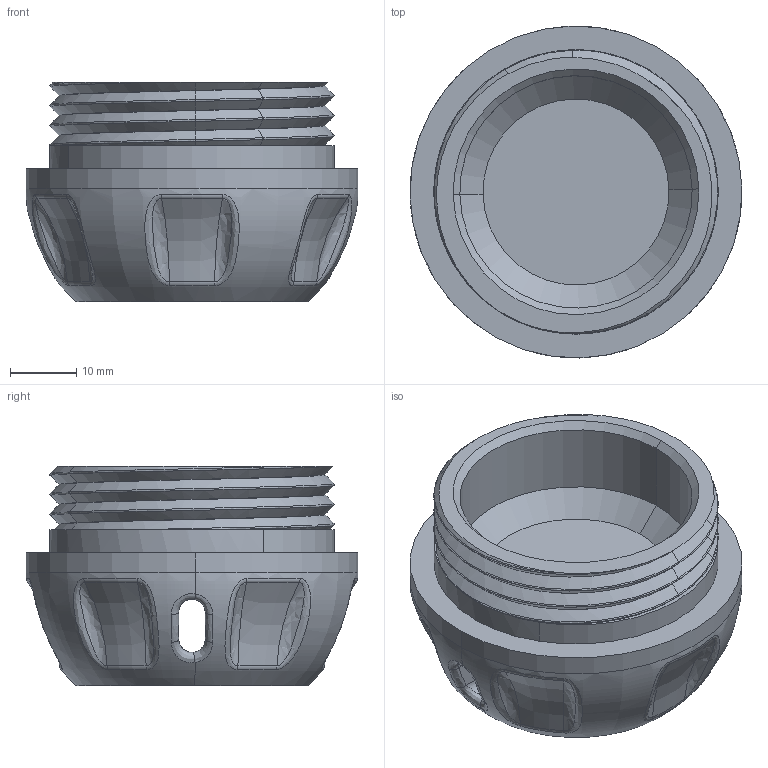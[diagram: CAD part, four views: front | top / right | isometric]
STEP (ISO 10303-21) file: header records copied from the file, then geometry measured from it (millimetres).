
FILE_DESCRIPTION(('FreeCAD Model'),'2;1');
FILE_NAME( 'D:/F/ДИЗАЙН/Металлоискатель/Смарт/K_P2.stp' ,'2021-07-05T17:04:14',('Author'),(''), 'Open CASCADE STEP processor 6.8','FreeCAD','Unknown');
FILE_SCHEMA(('AUTOMOTIVE_DESIGN_CC2 { 1 2 10303 214 -1 1 5 4 }'));
Products named in the file (1): K
Bounding box: 49.99 x 49.99 x 33 mm (x, y, z)
Volume: 27630.1 mm3; surface area: 13033 mm2
Topology: 1 solids, 3 shells, 184 faces, 443 edges, 270 vertices
Faces by surface type: bspline 103, torus 26, cylinder 25, plane 16, cone 8, revolution 6
Entity records: 43990 total; most frequent: CARTESIAN_POINT 37250, B_SPLINE_CURVE_WITH_KNOTS 1064, ORIENTED_EDGE 886, PCURVE 886, DEFINITIONAL_REPRESENTATION 886, DIRECTION 499, EDGE_CURVE 443, SURFACE_CURVE 443
